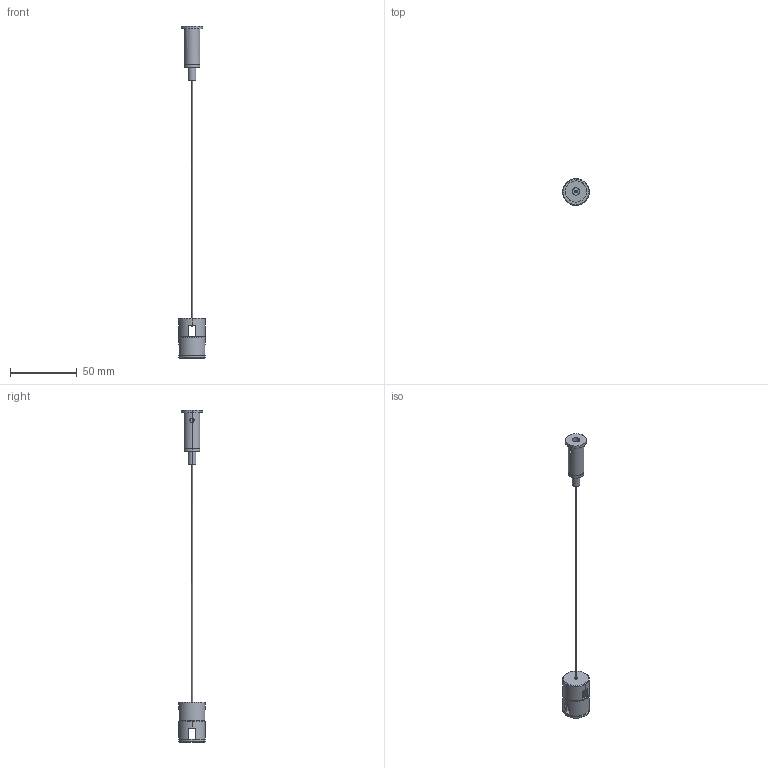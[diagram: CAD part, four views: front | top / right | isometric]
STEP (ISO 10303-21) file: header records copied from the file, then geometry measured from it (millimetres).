
FILE_DESCRIPTION(/* description */ (''),/* implementation_level */ '2;1');
FILE_NAME(/* name */ 'Funivia - Double cable support',/* time_stamp */ '2022-08-29T17:32:06+02:00',/* author */ (''),/* organization */ (''),/* preprocessor_version */ 'ST-DEVELOPER v16.5',/* originating_system */ 'Rhino 7.17',/* authorisation */ '');
FILE_SCHEMA (('AUTOMOTIVE_DESIGN'));
Length unit declared in the file: millimetre
Products named in the file (1): Document
Bounding box: 20 x 20 x 249.5 mm (x, y, z)
Volume: 8716.8 mm3; surface area: 8013.8 mm2
Topology: 5 solids, 5 shells, 130 faces, 318 edges, 208 vertices
Faces by surface type: cylinder 60, plane 54, bspline 16
Entity records: 3956 total; most frequent: CARTESIAN_POINT 1778, ORIENTED_EDGE 636, EDGE_CURVE 318, VERTEX_POINT 208, B_SPLINE_CURVE_WITH_KNOTS 170, EDGE_LOOP 148, ADVANCED_FACE 130, FACE_OUTER_BOUND 130
